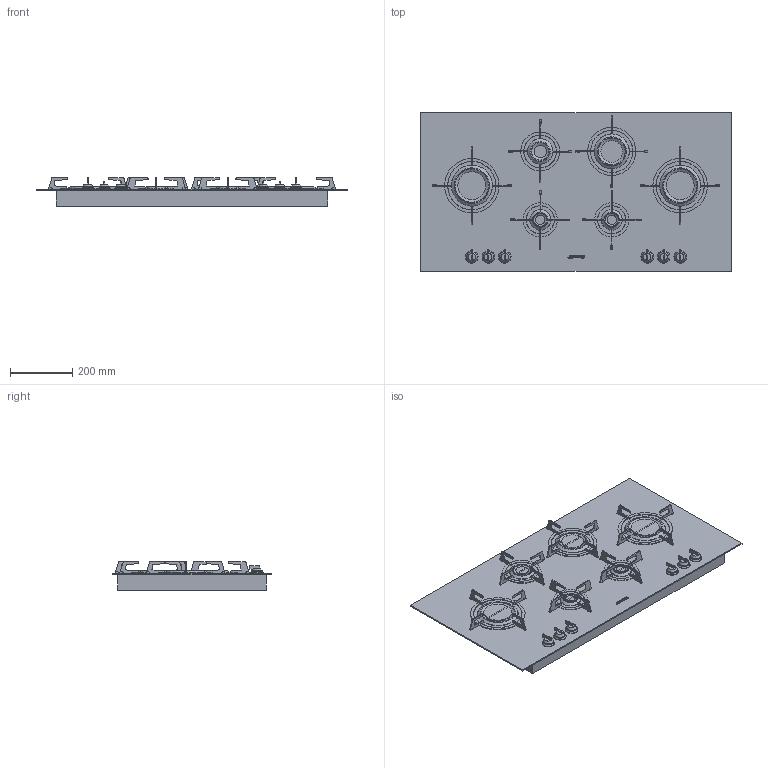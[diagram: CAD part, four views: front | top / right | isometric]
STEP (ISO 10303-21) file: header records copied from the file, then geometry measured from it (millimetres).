
FILE_DESCRIPTION(/* description */ (''),/* implementation_level */ '2;1');
FILE_NAME(/* name */ 'PVL6106CN.stp',/* time_stamp */ '2017-10-26T17:18:50+02:00',/* author */ (''),/* organization */ (''),/* preprocessor_version */ 'ST-DEVELOPER v16',/* originating_system */ 'SIEMENS PLM Software NX 11.0',/* authorisation */ '');
FILE_SCHEMA (('AUTOMOTIVE_DESIGN { 1 0 10303 214 3 1 1 1 }'));
Length unit declared in the file: millimetre
Products named in the file (1): gras42407D69f4ww
Bounding box: 1000 x 510 x 92.16 mm (x, y, z)
Volume: 23494916.8 mm3; surface area: 2564697.8 mm2
Topology: 96 solids, 96 shells, 1039 faces, 2423 edges, 1602 vertices
Faces by surface type: plane 698, cylinder 293, cone 30, extrusion 11, torus 7
Full cylindrical faces by diameter (mm): 4.608 x6, 5 x6, 20 x9, 30 x2, 40 x7, 43 x2, 47 x2, 58 x1, 62 x1, 65 x2, 67 x2, 70 x1, 80 x1, 82 x1, 88 x1, 90 x4, 91 x2, 92 x1, 105 x1, 106 x1, 108.4 x2, 110 x3, 112 x2, 113 x1, 125 x1, 130 x2, 132 x2, 136 x2, 155 x3, 156 x2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
Entity records: 29845 total; most frequent: CARTESIAN_POINT 5409, DIRECTION 4956, ORIENTED_EDGE 4600, EDGE_CURVE 2300, AXIS2_PLACEMENT_3D 1675, VECTOR 1606, LINE 1595, VERTEX_POINT 1586
